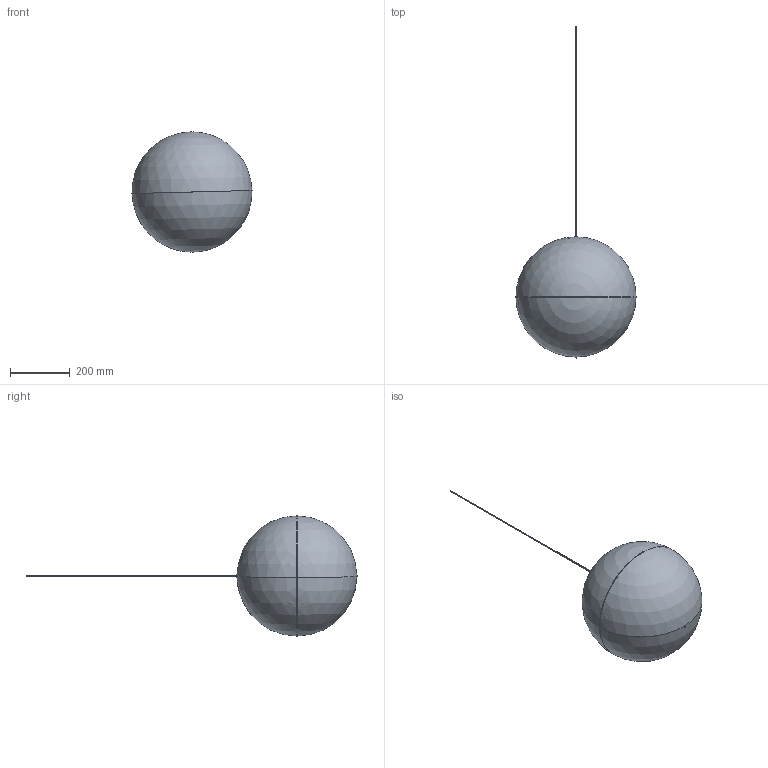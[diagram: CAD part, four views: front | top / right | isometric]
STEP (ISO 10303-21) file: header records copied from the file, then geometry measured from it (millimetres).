
FILE_DESCRIPTION (( 'STEP AP214' ), '1' );
FILE_NAME ('VP Globe Small.STEP', '2013-01-14T19:26:08', ( '' ), ( '' ), 'SwSTEP 2.0', 'SolidWorks 2013', '' );
FILE_SCHEMA (( 'AUTOMOTIVE_DESIGN' ));
Length unit declared in the file: millimetre
Products named in the file (9): cable1000; Middle part_small; Globe o400; KugletrÕd til Ï400; Lille Sfµrecut top (rigtig farve); Gevindstang, lille sfµre,bund_prøve; Lille Sfµrecut_bund Ø400; 26215 Stor Sfµrecut Globe Ï400_stor sfærecut prøve; VP Globe Small
Assembly tree (11 placements, depth 2):
  VP Globe Small
    26215 Stor Sfµrecut Globe Ï400_stor sfærecut prøve  x2
    Lille Sfµrecut_bund Ø400
    Gevindstang, lille sfµre,bund_prøve
    Lille Sfµrecut top (rigtig farve)
    KugletrÕd til Ï400  x3
    Globe o400
    Middle part_small
    cable1000
Bounding box: 401.86 x 1111.16 x 401.93 mm (x, y, z)
Volume: 660334.9 mm3; surface area: 1372816 mm2
Topology: 11 solids, 11 shells, 1013 faces, 3447 edges, 1530 vertices
Faces by surface type: cylinder 498, bspline 472, cone 16, plane 13, torus 8, sphere 6
Entity records: 19215 total; most frequent: CARTESIAN_POINT 5970, DIRECTION 2102, ORIENTED_EDGE 1896, AXIS2_PLACEMENT_3D 953, EDGE_CURVE 948, CIRCLE 720, VERTEX_POINT 575, EDGE_LOOP 393
